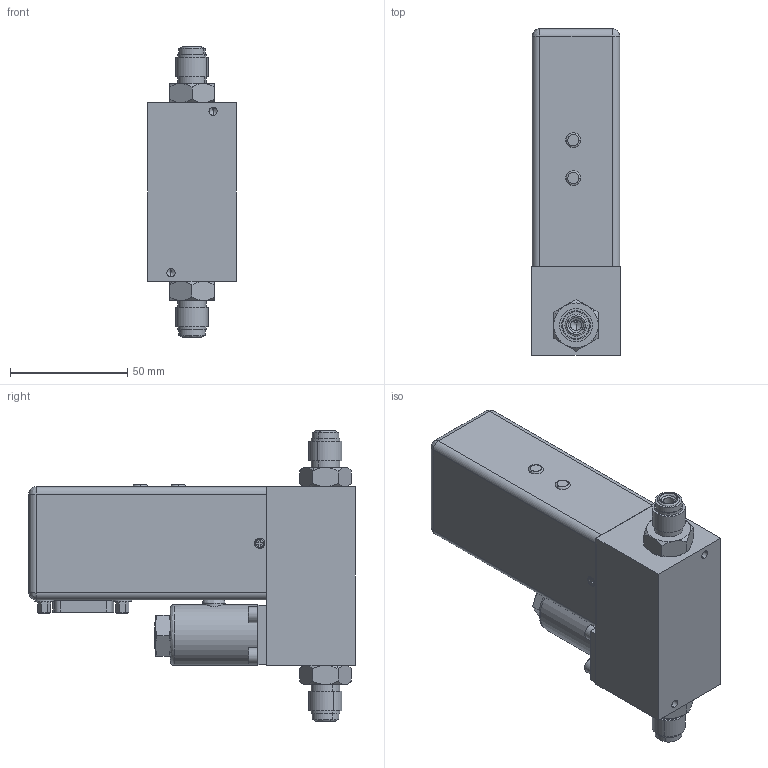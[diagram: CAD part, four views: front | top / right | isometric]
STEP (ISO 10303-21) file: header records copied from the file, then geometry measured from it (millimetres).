
FILE_DESCRIPTION (( 'STEP AP203' ), '1' );
FILE_NAME ('5850IA-1-B-G.STEP', '2022-08-30T18:08:00', ( '' ), ( '' ), 'SwSTEP 2.0', 'SolidWorks 2020', '' );
FILE_SCHEMA (( 'CONFIG_CONTROL_DESIGN' ));
Length unit declared in the file: inch
Products named in the file (1): 5850IA-1-B-G
Bounding box: 37.72 x 139.32 x 124.1 mm (x, y, z)
Volume: 143991.9 mm3; surface area: 83976.1 mm2
Topology: 29 solids, 29 shells, 770 faces, 1733 edges, 1067 vertices
Faces by surface type: cylinder 293, plane 279, cone 134, bspline 64
Entity records: 25119 total; most frequent: CARTESIAN_POINT 8004, DIRECTION 3635, ORIENTED_EDGE 3396, EDGE_CURVE 1698, AXIS2_PLACEMENT_3D 1425, VERTEX_POINT 1067, EDGE_LOOP 909, VECTOR 785
